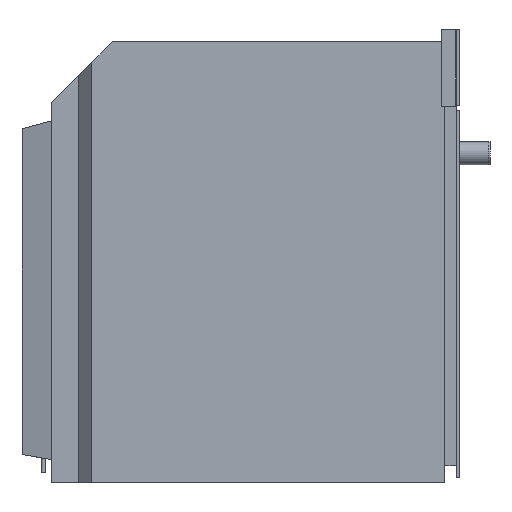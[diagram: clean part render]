
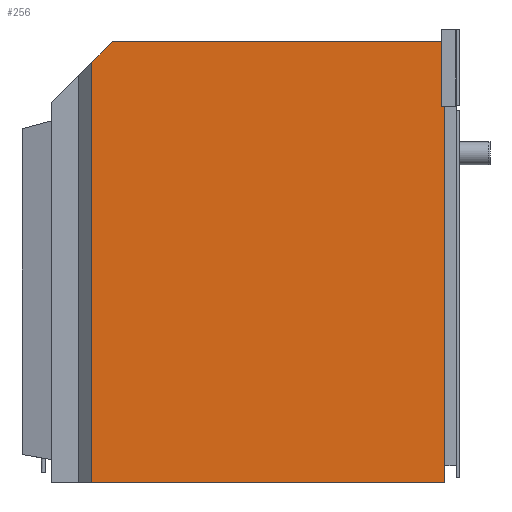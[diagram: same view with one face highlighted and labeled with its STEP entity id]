
A CAD part, left-side view. The second image highlights one B-rep face of the part: STEP entity #256.
In plain terms, the highlighted planar face has unit normal (-1, 0, 0).
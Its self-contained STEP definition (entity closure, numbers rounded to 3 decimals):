
#152=FACE_OUTER_BOUND('',#466,.T.);
#256=ADVANCED_FACE('',(#152),#358,.T.);
#358=PLANE('',#1981);
#466=EDGE_LOOP('',(#763,#764,#765,#766,#767,#768,#769,#770));
#763=ORIENTED_EDGE('',*,*,#1301,.F.);
#764=ORIENTED_EDGE('',*,*,#1279,.T.);
#765=ORIENTED_EDGE('',*,*,#1296,.F.);
#766=ORIENTED_EDGE('',*,*,#1300,.T.);
#767=ORIENTED_EDGE('',*,*,#1344,.T.);
#768=ORIENTED_EDGE('',*,*,#1342,.T.);
#769=ORIENTED_EDGE('',*,*,#1352,.F.);
#770=ORIENTED_EDGE('',*,*,#1317,.F.);
#1095=VERTEX_POINT('',#2639);
#1100=VERTEX_POINT('',#2648);
#1112=VERTEX_POINT('',#2683);
#1114=VERTEX_POINT('',#2690);
#1115=VERTEX_POINT('',#2694);
#1124=VERTEX_POINT('',#2725);
#1142=VERTEX_POINT('',#2788);
#1143=VERTEX_POINT('',#2790);
#1279=EDGE_CURVE('',#1095,#1100,#1528,.T.);
#1296=EDGE_CURVE('',#1112,#1100,#1545,.T.);
#1300=EDGE_CURVE('',#1112,#1114,#1549,.T.);
#1301=EDGE_CURVE('',#1095,#1115,#1550,.T.);
#1317=EDGE_CURVE('',#1115,#1124,#1566,.T.);
#1342=EDGE_CURVE('',#1143,#1142,#1588,.T.);
#1344=EDGE_CURVE('',#1114,#1143,#1590,.T.);
#1352=EDGE_CURVE('',#1124,#1142,#1598,.T.);
#1528=LINE('',#2649,#1746);
#1545=LINE('',#2684,#1763);
#1549=LINE('',#2691,#1767);
#1550=LINE('',#2693,#1768);
#1566=LINE('',#2724,#1784);
#1588=LINE('',#2789,#1806);
#1590=LINE('',#2793,#1808);
#1598=LINE('',#2807,#1816);
#1746=VECTOR('',#2138,1.);
#1763=VECTOR('',#2167,1.);
#1767=VECTOR('',#2173,1.);
#1768=VECTOR('',#2176,1.);
#1784=VECTOR('',#2204,1.);
#1806=VECTOR('',#2250,1.);
#1808=VECTOR('',#2254,1.);
#1816=VECTOR('',#2266,1.);
#1981=AXIS2_PLACEMENT_3D('',#2809,#2269,#2270);
#2138=DIRECTION('',(0.,1.,0.));
#2167=DIRECTION('',(0.,0.,-1.));
#2173=DIRECTION('',(0.,1.,0.));
#2176=DIRECTION('',(0.,0.,-1.));
#2204=DIRECTION('',(0.,0.,-1.));
#2250=DIRECTION('',(0.,0.,-1.));
#2254=DIRECTION('',(0.,0.707,-0.707));
#2266=DIRECTION('',(0.,1.,0.));
#2269=DIRECTION('',(-1.,0.,0.));
#2270=DIRECTION('',(0.,-1.,0.));
#2639=CARTESIAN_POINT('',(-274.95,-238.2,213.611));
#2648=CARTESIAN_POINT('',(-274.95,-234.05,213.611));
#2649=CARTESIAN_POINT('',(-274.95,-234.05,213.611));
#2683=CARTESIAN_POINT('',(-274.95,-234.05,297.917));
#2684=CARTESIAN_POINT('',(-274.95,-234.05,213.611));
#2690=CARTESIAN_POINT('',(-274.95,195.551,297.917));
#2691=CARTESIAN_POINT('',(-274.95,-238.2,297.917));
#2693=CARTESIAN_POINT('',(-274.95,-238.2,297.917));
#2694=CARTESIAN_POINT('',(-274.95,-238.2,-255.183));
#2724=CARTESIAN_POINT('',(-274.95,-238.2,297.917));
#2725=CARTESIAN_POINT('',(-274.95,-238.2,-277.733));
#2788=CARTESIAN_POINT('',(-274.95,222.45,-277.733));
#2789=CARTESIAN_POINT('',(-274.95,222.45,271.017));
#2790=CARTESIAN_POINT('',(-274.95,222.45,271.017));
#2793=CARTESIAN_POINT('',(-274.95,195.551,297.917));
#2807=CARTESIAN_POINT('',(-274.95,-238.2,-277.733));
#2809=CARTESIAN_POINT('',(-274.95,222.45,-277.733));
